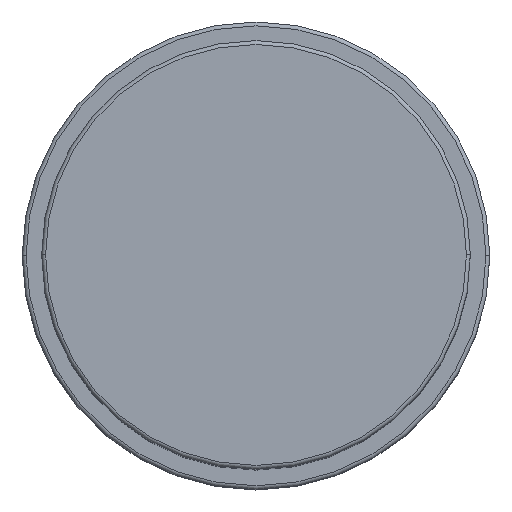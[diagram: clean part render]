
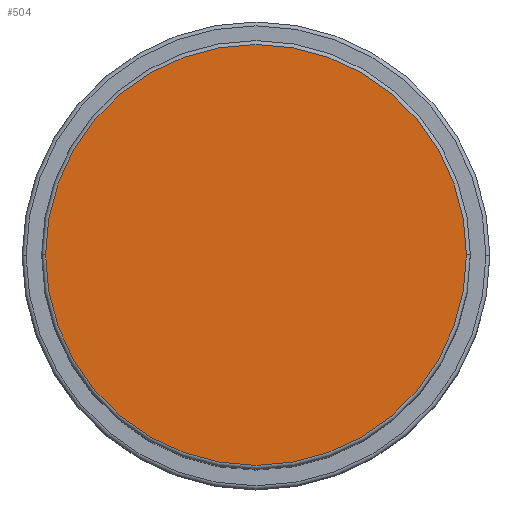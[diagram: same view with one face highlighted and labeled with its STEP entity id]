
A CAD part, top view. The second image highlights one B-rep face of the part: STEP entity #504.
In plain terms, the highlighted planar face has unit normal (0, 0, 1).
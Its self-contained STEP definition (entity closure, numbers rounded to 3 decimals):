
#32 = FACE_OUTER_BOUND ( 'NONE', #1550, .T. ) ;
#64 = CARTESIAN_POINT ( 'NONE',  ( 0., 0., 91. ) ) ;
#201 = CIRCLE ( 'NONE', #1433, 27. ) ;
#273 = ORIENTED_EDGE ( 'NONE', *, *, #444, .T. ) ;
#294 = ORIENTED_EDGE ( 'NONE', *, *, #1103, .T. ) ;
#303 = DIRECTION ( 'NONE',  ( 0., 0., 1. ) ) ;
#309 = VERTEX_POINT ( 'NONE', #1536 ) ;
#341 = DIRECTION ( 'NONE',  ( 1., 0., 0. ) ) ;
#350 = DIRECTION ( 'NONE',  ( 0., 0., 1. ) ) ;
#444 = EDGE_CURVE ( 'NONE', #910, #309, #201, .T. ) ;
#449 = PLANE ( 'NONE',  #1205 ) ;
#473 = CARTESIAN_POINT ( 'NONE',  ( 0., 0., 91. ) ) ;
#504 = ADVANCED_FACE ( 'NONE', ( #32 ), #449, .T. ) ;
#594 = CARTESIAN_POINT ( 'NONE',  ( 0., 0., 91. ) ) ;
#670 = CIRCLE ( 'NONE', #1274, 27. ) ;
#910 = VERTEX_POINT ( 'NONE', #1449 ) ;
#997 = DIRECTION ( 'NONE',  ( 1., 0., 0. ) ) ;
#1103 = EDGE_CURVE ( 'NONE', #309, #910, #670, .T. ) ;
#1205 = AXIS2_PLACEMENT_3D ( 'NONE', #473, #1360, #997 ) ;
#1274 = AXIS2_PLACEMENT_3D ( 'NONE', #594, #350, #341 ) ;
#1360 = DIRECTION ( 'NONE',  ( 0., 0., 1. ) ) ;
#1433 = AXIS2_PLACEMENT_3D ( 'NONE', #64, #303, #1460 ) ;
#1449 = CARTESIAN_POINT ( 'NONE',  ( 27., 0., 91. ) ) ;
#1460 = DIRECTION ( 'NONE',  ( 1., 0., 0. ) ) ;
#1536 = CARTESIAN_POINT ( 'NONE',  ( -27., 0., 91. ) ) ;
#1550 = EDGE_LOOP ( 'NONE', ( #273, #294 ) ) ;
